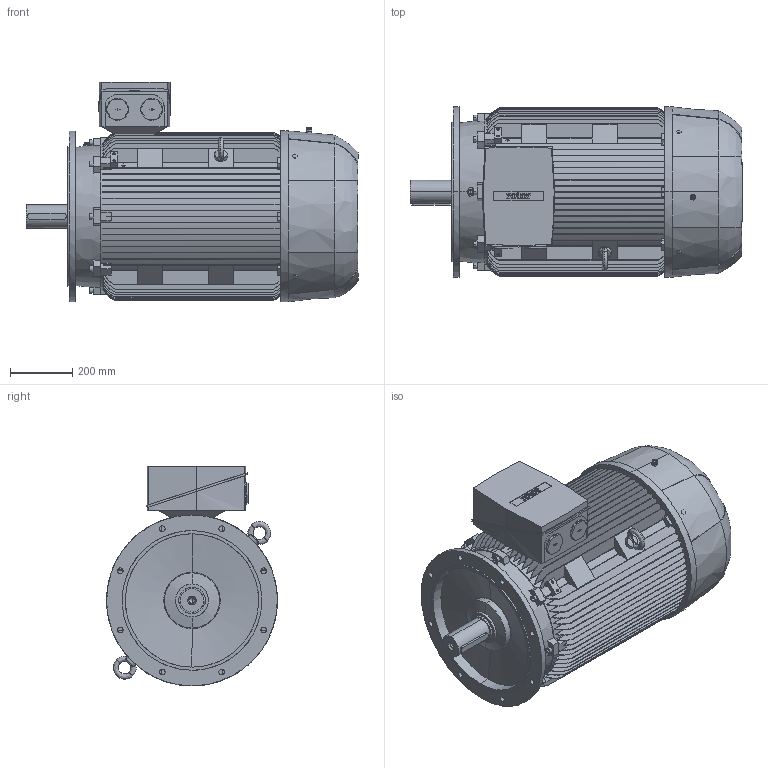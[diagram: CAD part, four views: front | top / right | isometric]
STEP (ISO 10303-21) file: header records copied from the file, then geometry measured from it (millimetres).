
FILE_DESCRIPTION (( 'STEP AP203' ), '1' );
FILE_NAME ('6RN280M04E26 IM3041.STEP', '2017-01-04T07:12:55', ( 'rotor' ), ( 'Hewlett-Packard Company' ), 'SwSTEP 2.0', 'SolidWorks 2015', '' );
FILE_SCHEMA (( 'CONFIG_CONTROL_DESIGN' ));
Products named in the file (1): 6RN280M04E26 IM3041
Bounding box: 1070 x 551 x 708.5 mm (x, y, z)
Volume: 181994994.9 mm3; surface area: 5442660.3 mm2
Topology: 4 solids, 4 shells, 1159 faces, 3295 edges, 2197 vertices
Faces by surface type: plane 695, cylinder 224, bspline 217, cone 23
Entity records: 53966 total; most frequent: CARTESIAN_POINT 26008, ORIENTED_EDGE 6578, DIRECTION 4673, EDGE_CURVE 3289, VERTEX_POINT 2197, VECTOR 1821, LINE 1821, AXIS2_PLACEMENT_3D 1426
